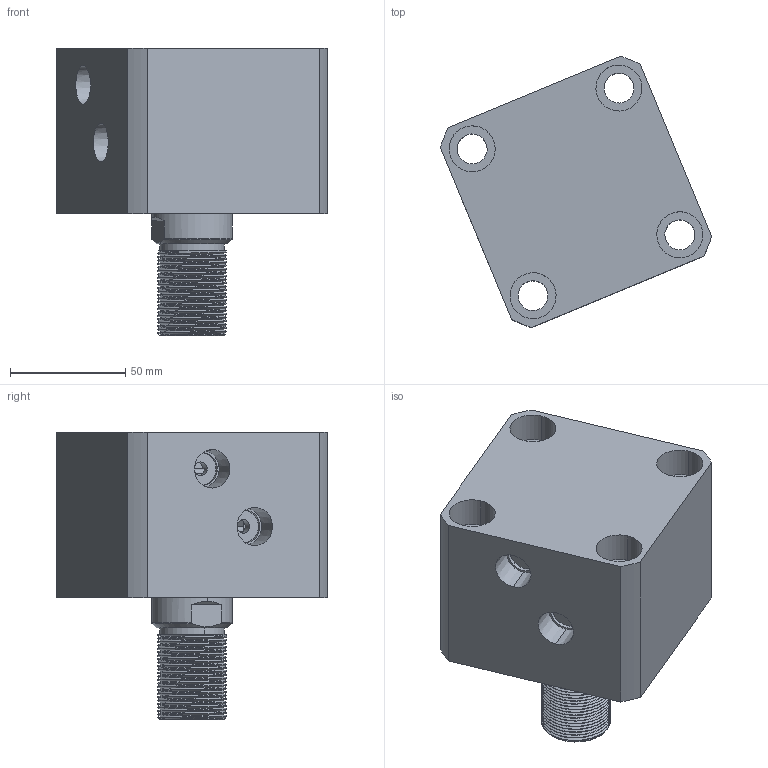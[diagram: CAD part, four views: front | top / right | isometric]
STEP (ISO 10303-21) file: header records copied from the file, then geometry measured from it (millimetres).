
FILE_DESCRIPTION (( 'STEP AP214' ), '1' );
FILE_NAME ('chtb-sd63x5w_asm.STEP', '2018-05-19T01:46:31', ( 'Windows' ), ( 'Microsoft' ), 'SwSTEP 2.0', 'SolidWorks 2015', '' );
FILE_SCHEMA (( 'AUTOMOTIVE_DESIGN' ));
Length unit declared in the file: millimetre
Products named in the file (4): CHTB63X5WHSG; CHTB63X5NBT; CHTB-63QG; chtb-sd63x5w_asm
Assembly tree (3 placements, depth 2):
  chtb-sd63x5w_asm
    CHTB-63QG
    CHTB63X5NBT
    CHTB63X5WHSG
Bounding box: 117.81 x 117.81 x 125 mm (x, y, z)
Volume: 596805.5 mm3; surface area: 112078.3 mm2
Topology: 3 solids, 3 shells, 219 faces, 625 edges, 427 vertices
Faces by surface type: cylinder 150, plane 36, bspline 14, cone 13, torus 6
Entity records: 22208 total; most frequent: CARTESIAN_POINT 16953, ORIENTED_EDGE 1242, DIRECTION 881, EDGE_CURVE 621, VERTEX_POINT 427, AXIS2_PLACEMENT_3D 346, EDGE_LOOP 252, FACE_OUTER_BOUND 219
